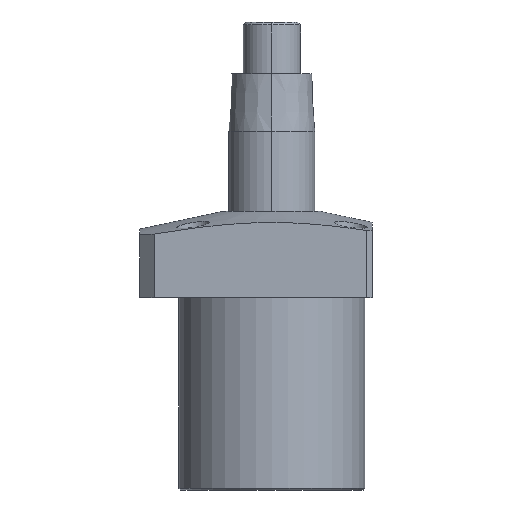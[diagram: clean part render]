
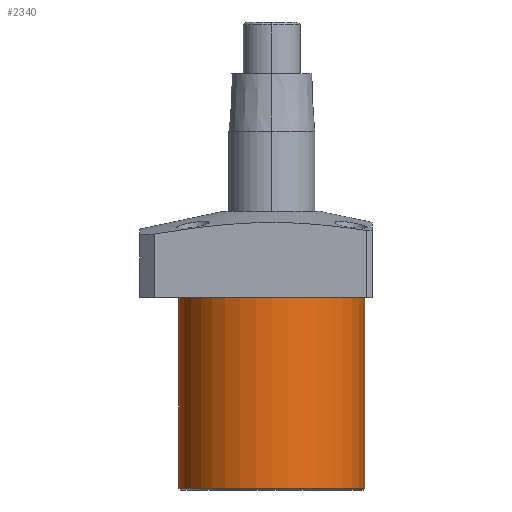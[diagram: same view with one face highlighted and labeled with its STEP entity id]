
A CAD part, front view. The second image highlights one B-rep face of the part: STEP entity #2340.
In plain terms, the highlighted cylindrical face has radius 32.4 mm (diameter 64.8 mm), a partial arc.
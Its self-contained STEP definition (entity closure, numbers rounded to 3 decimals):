
#165 = DIRECTION ( 'NONE',  ( 0., 0., -1. ) ) ;
#177 = CARTESIAN_POINT ( 'NONE',  ( 0., 0., 0.6 ) ) ;
#335 = ORIENTED_EDGE ( 'NONE', *, *, #1160, .T. ) ;
#341 = EDGE_CURVE ( 'NONE', #590, #2498, #866, .T. ) ;
#397 = LINE ( 'NONE', #1191, #1594 ) ;
#585 = DIRECTION ( 'NONE',  ( 0., 0., 1. ) ) ;
#590 = VERTEX_POINT ( 'NONE', #1404 ) ;
#663 = EDGE_CURVE ( 'NONE', #2498, #1213, #698, .T. ) ;
#698 = LINE ( 'NONE', #868, #1294 ) ;
#732 = CARTESIAN_POINT ( 'NONE',  ( 0., 0., 67. ) ) ;
#866 = CIRCLE ( 'NONE', #1201, 32.4 ) ;
#868 = CARTESIAN_POINT ( 'NONE',  ( 32.4, 0., 67. ) ) ;
#913 = ORIENTED_EDGE ( 'NONE', *, *, #1157, .T. ) ;
#1006 = CARTESIAN_POINT ( 'NONE',  ( 32.4, 0., 0.6 ) ) ;
#1157 = EDGE_CURVE ( 'NONE', #590, #1561, #397, .T. ) ;
#1160 = EDGE_CURVE ( 'NONE', #1561, #1213, #1925, .T. ) ;
#1191 = CARTESIAN_POINT ( 'NONE',  ( -32.4, 0., 67. ) ) ;
#1201 = AXIS2_PLACEMENT_3D ( 'NONE', #732, #585, #1511 ) ;
#1213 = VERTEX_POINT ( 'NONE', #1006 ) ;
#1294 = VECTOR ( 'NONE', #2254, 1000. ) ;
#1403 = DIRECTION ( 'NONE',  ( 1., 0., 0. ) ) ;
#1404 = CARTESIAN_POINT ( 'NONE',  ( -32.4, 0., 67. ) ) ;
#1492 = DIRECTION ( 'NONE',  ( -1., 0., 0. ) ) ;
#1507 = FACE_OUTER_BOUND ( 'NONE', #2265, .T. ) ;
#1511 = DIRECTION ( 'NONE',  ( 1., 0., 0. ) ) ;
#1561 = VERTEX_POINT ( 'NONE', #2095 ) ;
#1594 = VECTOR ( 'NONE', #1972, 1000. ) ;
#1606 = ORIENTED_EDGE ( 'NONE', *, *, #663, .F. ) ;
#1808 = CARTESIAN_POINT ( 'NONE',  ( 32.4, 0., 67. ) ) ;
#1835 = ORIENTED_EDGE ( 'NONE', *, *, #341, .F. ) ;
#1923 = CARTESIAN_POINT ( 'NONE',  ( 0., 0., 67. ) ) ;
#1925 = CIRCLE ( 'NONE', #2217, 32.4 ) ;
#1972 = DIRECTION ( 'NONE',  ( 0., 0., -1. ) ) ;
#2003 = DIRECTION ( 'NONE',  ( 0., 0., 1. ) ) ;
#2095 = CARTESIAN_POINT ( 'NONE',  ( -32.4, 0., 0.6 ) ) ;
#2099 = CYLINDRICAL_SURFACE ( 'NONE', #2206, 32.4 ) ;
#2206 = AXIS2_PLACEMENT_3D ( 'NONE', #1923, #165, #1492 ) ;
#2217 = AXIS2_PLACEMENT_3D ( 'NONE', #177, #2003, #1403 ) ;
#2254 = DIRECTION ( 'NONE',  ( 0., 0., -1. ) ) ;
#2265 = EDGE_LOOP ( 'NONE', ( #1606, #1835, #913, #335 ) ) ;
#2340 = ADVANCED_FACE ( 'NONE', ( #1507 ), #2099, .T. ) ;
#2498 = VERTEX_POINT ( 'NONE', #1808 ) ;
